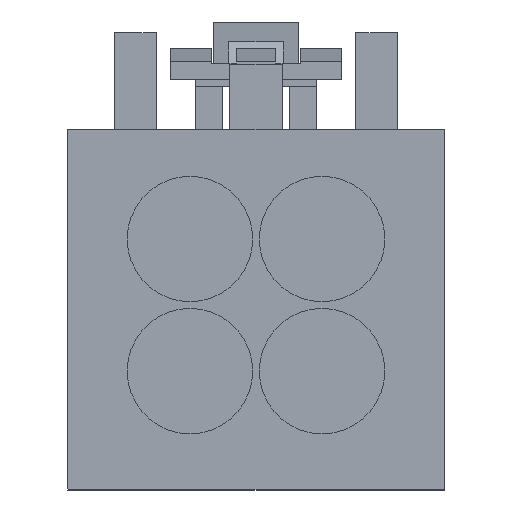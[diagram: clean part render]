
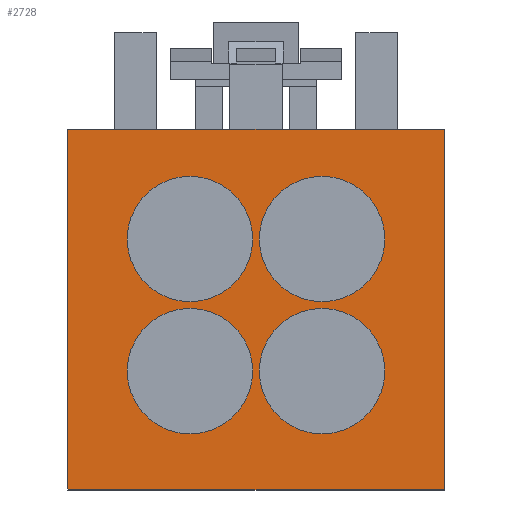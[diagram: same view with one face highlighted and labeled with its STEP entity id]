
A CAD part, left-side view. The second image highlights one B-rep face of the part: STEP entity #2728.
In plain terms, the highlighted planar face has unit normal (-1, 0, 0).
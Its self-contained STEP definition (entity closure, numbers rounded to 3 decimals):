
#2164=AXIS2_PLACEMENT_3D('Circle Axis2P3D',#2162,#2163,$) ;
#2513=AXIS2_PLACEMENT_3D('Circle Axis2P3D',#2511,#2512,$) ;
#2553=AXIS2_PLACEMENT_3D('Circle Axis2P3D',#2551,#2552,$) ;
#2579=AXIS2_PLACEMENT_3D('Circle Axis2P3D',#2577,#2578,$) ;
#2591=AXIS2_PLACEMENT_3D('Circle Axis2P3D',#2589,#2590,$) ;
#2608=AXIS2_PLACEMENT_3D('Circle Axis2P3D',#2606,#2607,$) ;
#2678=AXIS2_PLACEMENT_3D('Plane Axis2P3D',#2675,#2676,#2677) ;
#2712=AXIS2_PLACEMENT_3D('Circle Axis2P3D',#2710,#2711,$) ;
#2721=AXIS2_PLACEMENT_3D('Circle Axis2P3D',#2719,#2720,$) ;
#1335=CARTESIAN_POINT('Vertex',(-22.55,7.7,3.32)) ;
#1338=CARTESIAN_POINT('Line Origine',(-22.55,2.,3.32)) ;
#1342=CARTESIAN_POINT('Vertex',(-22.55,-3.7,3.32)) ;
#2159=CARTESIAN_POINT('Vertex',(-22.55,1.9,-4.)) ;
#2162=CARTESIAN_POINT('Axis2P3D Location',(-22.55,0.,-4.)) ;
#2166=CARTESIAN_POINT('Vertex',(-22.55,-1.9,-4.)) ;
#2506=CARTESIAN_POINT('Vertex',(-22.55,1.9,0.)) ;
#2511=CARTESIAN_POINT('Axis2P3D Location',(-22.55,0.,0.)) ;
#2515=CARTESIAN_POINT('Vertex',(-22.55,-1.9,0.)) ;
#2546=CARTESIAN_POINT('Vertex',(-22.55,2.1,-4.)) ;
#2551=CARTESIAN_POINT('Axis2P3D Location',(-22.55,4.,-4.)) ;
#2555=CARTESIAN_POINT('Vertex',(-22.55,5.9,-4.)) ;
#2577=CARTESIAN_POINT('Axis2P3D Location',(-22.55,0.,-4.)) ;
#2589=CARTESIAN_POINT('Axis2P3D Location',(-22.55,0.,0.)) ;
#2606=CARTESIAN_POINT('Axis2P3D Location',(-22.55,4.,-4.)) ;
#2658=CARTESIAN_POINT('Vertex',(-22.55,7.7,-7.6)) ;
#2661=CARTESIAN_POINT('Line Origine',(-22.55,7.7,-2.14)) ;
#2675=CARTESIAN_POINT('Axis2P3D Location',(-22.55,-45.,0.)) ;
#2680=CARTESIAN_POINT('Line Origine',(-22.55,2.,-7.6)) ;
#2684=CARTESIAN_POINT('Vertex',(-22.55,-3.7,-7.6)) ;
#2687=CARTESIAN_POINT('Line Origine',(-22.55,-3.7,-2.14)) ;
#2710=CARTESIAN_POINT('Axis2P3D Location',(-22.55,4.,0.)) ;
#2714=CARTESIAN_POINT('Vertex',(-22.55,2.1,0.)) ;
#2716=CARTESIAN_POINT('Vertex',(-22.55,5.9,0.)) ;
#2719=CARTESIAN_POINT('Axis2P3D Location',(-22.55,4.,0.)) ;
#1339=DIRECTION('Vector Direction',(0.,-1.,0.)) ;
#2163=DIRECTION('Axis2P3D Direction',(-1.,0.,0.)) ;
#2512=DIRECTION('Axis2P3D Direction',(-1.,0.,0.)) ;
#2552=DIRECTION('Axis2P3D Direction',(-1.,0.,0.)) ;
#2578=DIRECTION('Axis2P3D Direction',(-1.,0.,0.)) ;
#2590=DIRECTION('Axis2P3D Direction',(-1.,0.,0.)) ;
#2607=DIRECTION('Axis2P3D Direction',(-1.,0.,0.)) ;
#2662=DIRECTION('Vector Direction',(0.,0.,1.)) ;
#2676=DIRECTION('Axis2P3D Direction',(1.,0.,0.)) ;
#2677=DIRECTION('Axis2P3D XDirection',(0.,1.,0.)) ;
#2681=DIRECTION('Vector Direction',(0.,1.,0.)) ;
#2688=DIRECTION('Vector Direction',(0.,0.,1.)) ;
#2711=DIRECTION('Axis2P3D Direction',(1.,0.,0.)) ;
#2720=DIRECTION('Axis2P3D Direction',(1.,0.,0.)) ;
#1340=VECTOR('Line Direction',#1339,1.) ;
#2663=VECTOR('Line Direction',#2662,1.) ;
#2682=VECTOR('Line Direction',#2681,1.) ;
#2689=VECTOR('Line Direction',#2688,1.) ;
#2693=ORIENTED_EDGE('',*,*,#2686,.F.) ;
#2694=ORIENTED_EDGE('',*,*,#2691,.T.) ;
#2695=ORIENTED_EDGE('',*,*,#1344,.F.) ;
#2696=ORIENTED_EDGE('',*,*,#2665,.F.) ;
#2699=ORIENTED_EDGE('',*,*,#2517,.F.) ;
#2700=ORIENTED_EDGE('',*,*,#2593,.F.) ;
#2703=ORIENTED_EDGE('',*,*,#2168,.F.) ;
#2704=ORIENTED_EDGE('',*,*,#2581,.F.) ;
#2707=ORIENTED_EDGE('',*,*,#2557,.F.) ;
#2708=ORIENTED_EDGE('',*,*,#2610,.F.) ;
#2725=ORIENTED_EDGE('',*,*,#2718,.F.) ;
#2726=ORIENTED_EDGE('',*,*,#2723,.F.) ;
#2701=FACE_BOUND('',#2698,.T.) ;
#2705=FACE_BOUND('',#2702,.T.) ;
#2709=FACE_BOUND('',#2706,.T.) ;
#2727=FACE_BOUND('',#2724,.T.) ;
#2728=ADVANCED_FACE('KEY_A',(#2697,#2701,#2705,#2709,#2727),#2679,.F.) ;
#2165=CIRCLE('generated circle',#2164,1.9) ;
#2514=CIRCLE('generated circle',#2513,1.9) ;
#2554=CIRCLE('generated circle',#2553,1.9) ;
#2580=CIRCLE('generated circle',#2579,1.9) ;
#2592=CIRCLE('generated circle',#2591,1.9) ;
#2609=CIRCLE('generated circle',#2608,1.9) ;
#2713=CIRCLE('generated circle',#2712,1.9) ;
#2722=CIRCLE('generated circle',#2721,1.9) ;
#1344=EDGE_CURVE('',#1336,#1343,#1341,.T.) ;
#2168=EDGE_CURVE('',#2160,#2167,#2165,.T.) ;
#2517=EDGE_CURVE('',#2507,#2516,#2514,.T.) ;
#2557=EDGE_CURVE('',#2547,#2556,#2554,.T.) ;
#2581=EDGE_CURVE('',#2167,#2160,#2580,.T.) ;
#2593=EDGE_CURVE('',#2516,#2507,#2592,.T.) ;
#2610=EDGE_CURVE('',#2556,#2547,#2609,.T.) ;
#2665=EDGE_CURVE('',#2659,#1336,#2664,.T.) ;
#2686=EDGE_CURVE('',#2685,#2659,#2683,.T.) ;
#2691=EDGE_CURVE('',#2685,#1343,#2690,.T.) ;
#2718=EDGE_CURVE('',#2715,#2717,#2713,.F.) ;
#2723=EDGE_CURVE('',#2717,#2715,#2722,.F.) ;
#2692=EDGE_LOOP('',(#2693,#2694,#2695,#2696)) ;
#2698=EDGE_LOOP('',(#2699,#2700)) ;
#2702=EDGE_LOOP('',(#2703,#2704)) ;
#2706=EDGE_LOOP('',(#2707,#2708)) ;
#2724=EDGE_LOOP('',(#2725,#2726)) ;
#2697=FACE_OUTER_BOUND('',#2692,.T.) ;
#1341=LINE('Line',#1338,#1340) ;
#2664=LINE('Line',#2661,#2663) ;
#2683=LINE('Line',#2680,#2682) ;
#2690=LINE('Line',#2687,#2689) ;
#2679=PLANE('',#2678) ;
#1336=VERTEX_POINT('',#1335) ;
#1343=VERTEX_POINT('',#1342) ;
#2160=VERTEX_POINT('',#2159) ;
#2167=VERTEX_POINT('',#2166) ;
#2507=VERTEX_POINT('',#2506) ;
#2516=VERTEX_POINT('',#2515) ;
#2547=VERTEX_POINT('',#2546) ;
#2556=VERTEX_POINT('',#2555) ;
#2659=VERTEX_POINT('',#2658) ;
#2685=VERTEX_POINT('',#2684) ;
#2715=VERTEX_POINT('',#2714) ;
#2717=VERTEX_POINT('',#2716) ;
